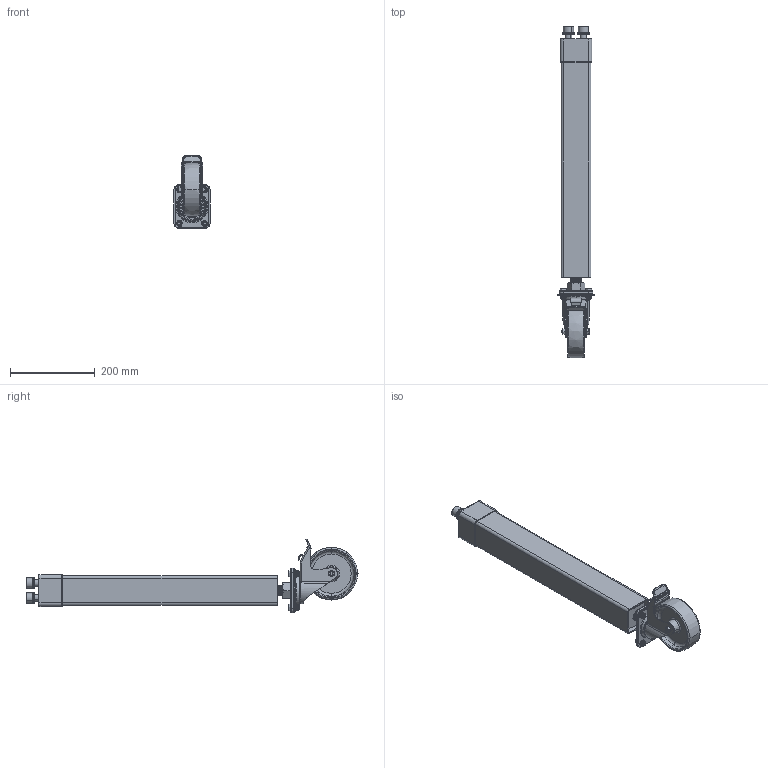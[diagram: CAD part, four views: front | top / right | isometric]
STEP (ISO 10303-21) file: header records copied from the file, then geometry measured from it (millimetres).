
FILE_DESCRIPTION (( 'STEP AP203' ), '1' );
FILE_NAME ('160876.X.step', '2014-08-11T17:01:22', ( 'User' ), ( '' ), 'SwSTEP 2.0', 'SolidWorks 2014', '' );
FILE_SCHEMA (( 'CONFIG_CONTROL_DESIGN' ));
Length unit declared in the file: millimetre
Products named in the file (18): M24x1,5 H19 Din 934; Platte ^160876.X_Fertigung; 160881 Verstelleinheit Rolle_Einfach; Aufnahme^160876.X_Fertigung; DIN EN ISO 10511 - M8 - C_DIN EN ISO 10511 - M8 - C; Plastik gelenk^Rolle D125; ISO 4017 - M8 x 20-C_ISO 4017 - M8 x 20-C; Rolle 125^Rolle D125; M16x50 DIN 912_Detailliert; Halterung^Rolle D125; Ring DIN 127 A16; Rolle D125; 160873 Manschette_Foto_V1 Kreis; Gewindespindel M24x1,5^160881 Verstelleinheit Rolle_oh gewinde; Gewindestange M24x1,5_100^160876.X_Mit gewinde; Platte Rolle^160881 Verstelleinheit Rolle; Hohlprofil 100x100x3^160876.X_fertigung; 160876.X
Assembly tree (25 placements, depth 3):
  160876.X
    Hohlprofil 100x100x3^160876.X_fertigung
    Platte ^160876.X_Fertigung
    Aufnahme^160876.X_Fertigung
    Rolle D125
      Plastik gelenk^Rolle D125
      Rolle 125^Rolle D125
      Halterung^Rolle D125
    160881 Verstelleinheit Rolle_Einfach
      Gewindespindel M24x1,5^160881 Verstelleinheit Rolle_oh gewinde
      Platte Rolle^160881 Verstelleinheit Rolle
      M24x1,5 H19 Din 934
    DIN EN ISO 10511 - M8 - C_DIN EN ISO 10511 - M8 - C  x4
    ISO 4017 - M8 x 20-C_ISO 4017 - M8 x 20-C  x4
    M16x50 DIN 912_Detailliert  x2
    Ring DIN 127 A16  x2
    160873 Manschette_Foto_V1 Kreis
    Gewindestange M24x1,5_100^160876.X_Mit gewinde
Bounding box: 85 x 781.83 x 173.66 mm (x, y, z)
Volume: 1197431.6 mm3; surface area: 541649.4 mm2
Topology: 23 solids, 23 shells, 1467 faces, 4107 edges, 2711 vertices
Faces by surface type: cone 436, plane 429, cylinder 411, bspline 101, torus 90
Entity records: 56810 total; most frequent: CARTESIAN_POINT 21744, ORIENTED_EDGE 7282, DIRECTION 6753, EDGE_CURVE 3641, AXIS2_PLACEMENT_3D 2609, VERTEX_POINT 2445, VECTOR 1535, LINE 1535
